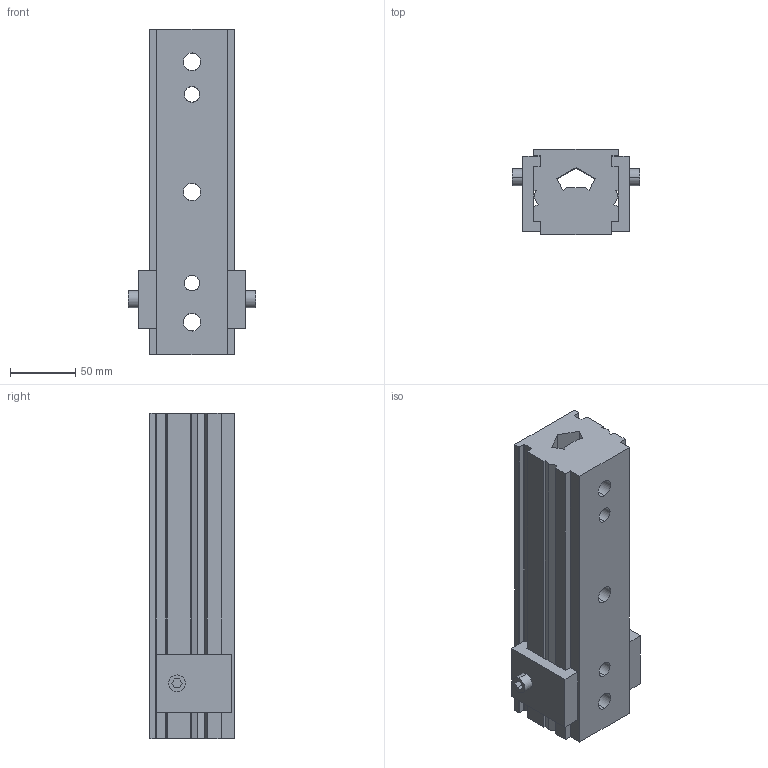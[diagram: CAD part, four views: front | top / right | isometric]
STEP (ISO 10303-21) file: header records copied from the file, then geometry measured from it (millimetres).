
FILE_DESCRIPTION(('CATIA V5 STEP Exchange'),'2;1');
FILE_NAME('C:\Users\Raffaele\Desktop\3D X SITO CF\A945-01\GSB_OILLESS_G24501062501BC\A945-01-625-01-S-BC.stp','2019-07-10T14:16:41+00:00',('none'),('none'),'CATIA Version 5 Release 20 GA (IN-10)','CATIA V5 STEP AP203','none');
FILE_SCHEMA(('CONFIG_CONTROL_DESIGN'));
Length unit declared in the file: millimetre
Products named in the file (1): A945-01-625-01-S-BC
Bounding box: 98 x 65 x 250 mm (x, y, z)
Volume: 938979.4 mm3; surface area: 113048.6 mm2
Topology: 1 solids, 1 shells, 117 faces, 380 edges, 256 vertices
Faces by surface type: plane 93, cylinder 24
Entity records: 4620 total; most frequent: CARTESIAN_POINT 1234, ORIENTED_EDGE 760, DIRECTION 584, EDGE_CURVE 380, VECTOR 294, LINE 294, VERTEX_POINT 256, AXIS2_PLACEMENT_3D 174
